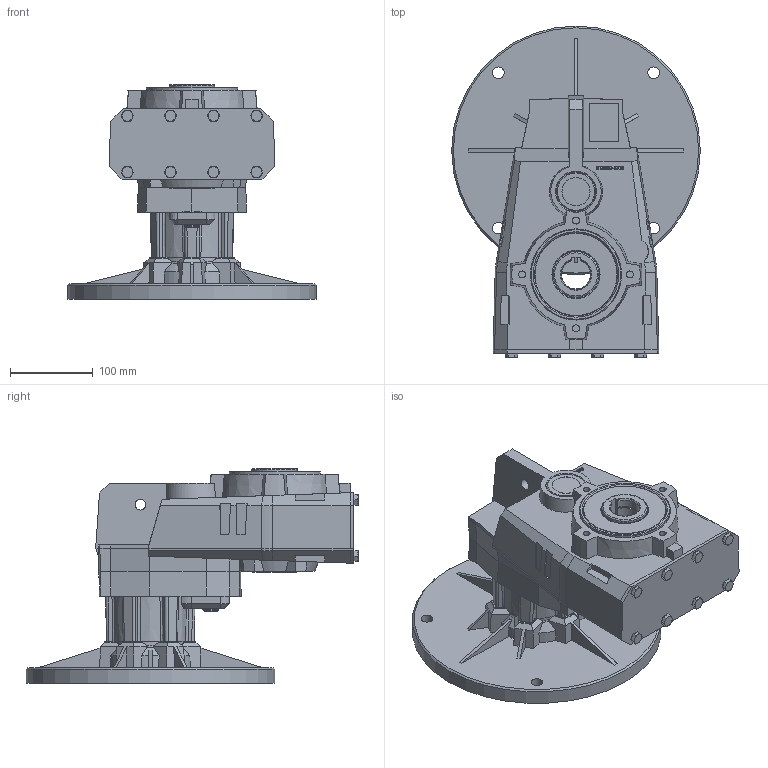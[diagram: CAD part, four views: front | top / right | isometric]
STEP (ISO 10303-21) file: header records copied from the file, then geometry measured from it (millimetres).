
FILE_DESCRIPTION( ( 'Unknown' ), '1' );
FILE_NAME( 'E:/services/configuratordownloads/customers/HYDROMEC/FLACH/download/6BFCF2E36DB4CFC76B1CA4858F5C1D3/STEP/6BFCF2E36DB4CFC76B1CA4858F5C1D3.3d.stp', 'Unknown', ( 'Unknown' ), ( 'Unknown' ), 'PSStep 10.1', 'Unknown', ' ' );
FILE_SCHEMA( ( 'AUTOMOTIVE_DESIGN { 1 0 10303 214 1 1 1 1 }' ) );
Length unit declared in the file: millimetre
Products named in the file (10): F508800_ST
Bounding box: 300 x 400.5 x 259 mm (x, y, z)
Volume: 6164242.5 mm3; surface area: 510135.1 mm2
Topology: 10 solids, 42 shells, 1121 faces, 2795 edges, 1809 vertices
Faces by surface type: plane 719, cylinder 173, cone 162, torus 43, bspline 14, extrusion 10
Full cylindrical faces by diameter (mm): 6 x1, 6.647 x40, 8 x8, 8.376 x8, 9 x8, 11.6 x8, 13 x15, 13.5 x1, 14 x4, 18 x1, 19 x1, 21 x1, 34 x1, 55 x2, 61 x1, 63 x1, 90 x1, 110 x1, 228.5 x1, 230 x1, 300 x1
Entity records: 42029 total; most frequent: CARTESIAN_POINT 7727, ORIENTED_EDGE 5040, DIRECTION 4986, EDGE_CURVE 2520, AXIS2_PLACEMENT_3D 1775, VERTEX_POINT 1734, VECTOR 1436, LINE 1426
